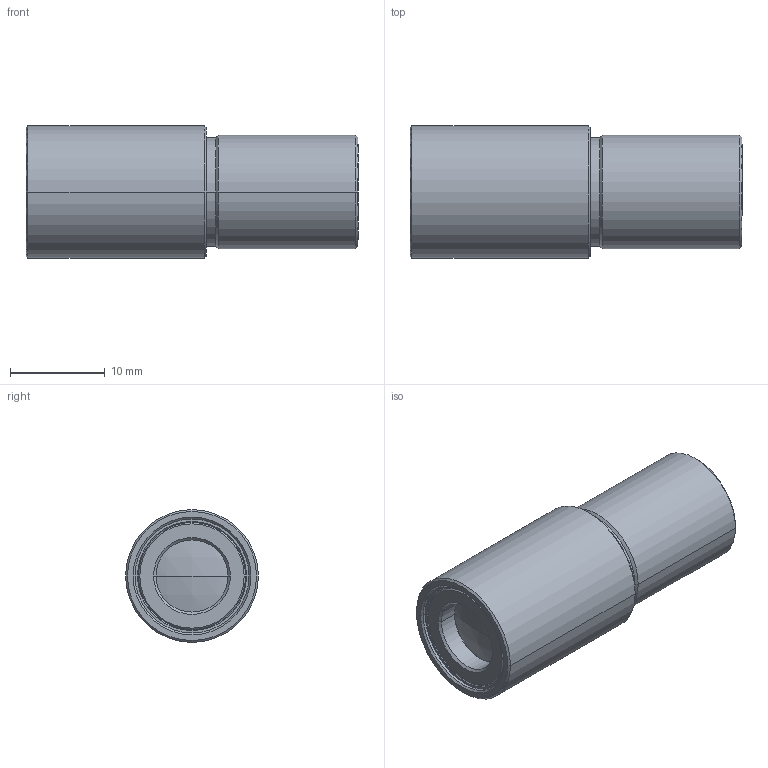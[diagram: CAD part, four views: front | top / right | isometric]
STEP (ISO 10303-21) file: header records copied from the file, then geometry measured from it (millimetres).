
FILE_DESCRIPTION (( 'STEP AP203' ), '1' );
FILE_NAME ('VS-MTC2-15.STEP', '2020-07-27T23:35:44', ( '' ), ( '' ), 'SwSTEP 2.0', 'SolidWorks 2018', '' );
FILE_SCHEMA (( 'CONFIG_CONTROL_DESIGN' ));
Length unit declared in the file: millimetre
Products named in the file (1): VS-MTC2-15
Bounding box: 35 x 14 x 14 mm (x, y, z)
Volume: 4427.9 mm3; surface area: 1903.7 mm2
Topology: 1 solids, 1 shells, 50 faces, 98 edges, 56 vertices
Faces by surface type: cone 24, cylinder 16, plane 6, sphere 4
Entity records: 1353 total; most frequent: DIRECTION 258, CARTESIAN_POINT 205, ORIENTED_EDGE 196, AXIS2_PLACEMENT_3D 109, EDGE_CURVE 98, CIRCLE 58, EDGE_LOOP 56, VERTEX_POINT 56
